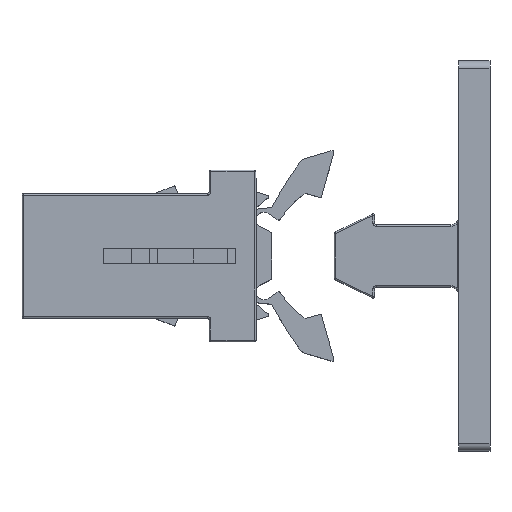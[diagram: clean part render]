
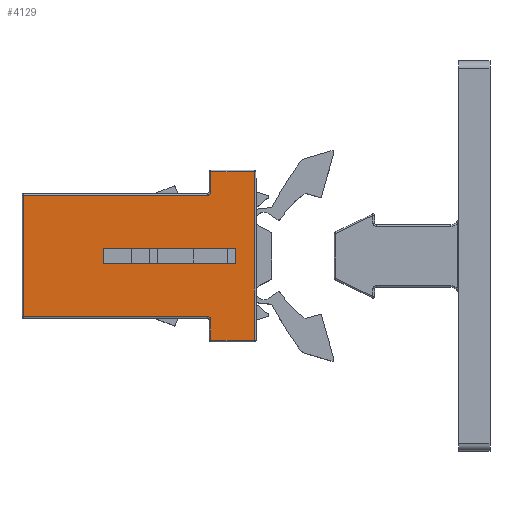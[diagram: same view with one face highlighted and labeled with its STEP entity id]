
A CAD part, top view. The second image highlights one B-rep face of the part: STEP entity #4129.
In plain terms, the highlighted planar face has unit normal (0, 0, 1).
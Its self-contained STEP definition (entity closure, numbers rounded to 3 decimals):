
#46=FACE_BOUND('',#1375,.T.);
#109=PLANE('',#4480);
#217=LINE('',#6436,#585);
#223=LINE('',#6493,#591);
#231=LINE('',#6529,#599);
#237=LINE('',#6557,#605);
#239=LINE('',#6560,#607);
#250=LINE('',#6593,#618);
#252=LINE('',#6596,#620);
#264=LINE('',#6614,#632);
#303=LINE('',#6702,#671);
#304=LINE('',#6704,#672);
#305=LINE('',#6706,#673);
#306=LINE('',#6707,#674);
#585=VECTOR('',#4952,2.8);
#591=VECTOR('',#5018,10.8);
#599=VECTOR('',#5060,2.8);
#605=VECTOR('',#5092,1.3);
#607=VECTOR('',#5096,11.8);
#618=VECTOR('',#5135,7.8);
#620=VECTOR('',#5139,11.8);
#632=VECTOR('',#5163,1.3);
#671=VECTOR('',#5260,1.);
#672=VECTOR('',#5261,8.5);
#673=VECTOR('',#5262,1.);
#674=VECTOR('',#5263,8.5);
#1121=FACE_OUTER_BOUND('',#1374,.T.);
#1374=EDGE_LOOP('',(#3165,#3166,#3167,#3168,#3169,#3170,#3171,#3172,#3173,
#3174));
#1375=EDGE_LOOP('',(#3175,#3176,#3177,#3178));
#1597=CIRCLE('',#4382,0.2);
#1623=CIRCLE('',#4427,0.2);
#1856=VERTEX_POINT('',#6400);
#1866=VERTEX_POINT('',#6427);
#1877=VERTEX_POINT('',#6458);
#1878=VERTEX_POINT('',#6460);
#1887=VERTEX_POINT('',#6484);
#1893=VERTEX_POINT('',#6504);
#1898=VERTEX_POINT('',#6520);
#1901=VERTEX_POINT('',#6533);
#1907=VERTEX_POINT('',#6551);
#1908=VERTEX_POINT('',#6553);
#1935=VERTEX_POINT('',#6700);
#1936=VERTEX_POINT('',#6701);
#1937=VERTEX_POINT('',#6703);
#1938=VERTEX_POINT('',#6705);
#2264=EDGE_CURVE('',#1856,#1866,#217,.T.);
#2275=EDGE_CURVE('',#1877,#1878,#1597,.T.);
#2291=EDGE_CURVE('',#1866,#1887,#223,.T.);
#2309=EDGE_CURVE('',#1887,#1898,#231,.T.);
#2321=EDGE_CURVE('',#1907,#1908,#1623,.T.);
#2323=EDGE_CURVE('',#1898,#1907,#237,.T.);
#2325=EDGE_CURVE('',#1908,#1901,#239,.T.);
#2343=EDGE_CURVE('',#1901,#1893,#250,.T.);
#2345=EDGE_CURVE('',#1893,#1877,#252,.T.);
#2357=EDGE_CURVE('',#1878,#1856,#264,.T.);
#2401=EDGE_CURVE('',#1935,#1936,#303,.T.);
#2402=EDGE_CURVE('',#1936,#1937,#304,.T.);
#2403=EDGE_CURVE('',#1937,#1938,#305,.T.);
#2404=EDGE_CURVE('',#1938,#1935,#306,.T.);
#3165=ORIENTED_EDGE('',*,*,#2321,.F.);
#3166=ORIENTED_EDGE('',*,*,#2323,.F.);
#3167=ORIENTED_EDGE('',*,*,#2309,.F.);
#3168=ORIENTED_EDGE('',*,*,#2291,.F.);
#3169=ORIENTED_EDGE('',*,*,#2264,.F.);
#3170=ORIENTED_EDGE('',*,*,#2357,.F.);
#3171=ORIENTED_EDGE('',*,*,#2275,.F.);
#3172=ORIENTED_EDGE('',*,*,#2345,.F.);
#3173=ORIENTED_EDGE('',*,*,#2343,.F.);
#3174=ORIENTED_EDGE('',*,*,#2325,.F.);
#3175=ORIENTED_EDGE('',*,*,#2401,.T.);
#3176=ORIENTED_EDGE('',*,*,#2402,.T.);
#3177=ORIENTED_EDGE('',*,*,#2403,.T.);
#3178=ORIENTED_EDGE('',*,*,#2404,.T.);
#4129=ADVANCED_FACE('',(#1121,#46),#109,.T.);
#4382=AXIS2_PLACEMENT_3D('',#6461,#4978,#4979);
#4427=AXIS2_PLACEMENT_3D('',#6554,#5086,#5087);
#4480=AXIS2_PLACEMENT_3D('',#6699,#5258,#5259);
#4952=DIRECTION('',(1.,0.,0.));
#4978=DIRECTION('center_axis',(0.,0.,1.));
#4979=DIRECTION('ref_axis',(0.707,-0.707,0.));
#5018=DIRECTION('',(0.,-1.,0.));
#5060=DIRECTION('',(-1.,0.,0.));
#5086=DIRECTION('center_axis',(0.,0.,1.));
#5087=DIRECTION('ref_axis',(0.707,0.707,0.));
#5092=DIRECTION('',(0.,1.,0.));
#5096=DIRECTION('',(-1.,0.,0.));
#5135=DIRECTION('',(0.,1.,0.));
#5139=DIRECTION('',(1.,0.,0.));
#5163=DIRECTION('',(0.,1.,0.));
#5258=DIRECTION('center_axis',(0.,0.,1.));
#5259=DIRECTION('ref_axis',(1.,0.,0.));
#5260=DIRECTION('',(0.,1.,0.));
#5261=DIRECTION('',(1.,0.,0.));
#5262=DIRECTION('',(0.,-1.,0.));
#5263=DIRECTION('',(-1.,0.,0.));
#6400=CARTESIAN_POINT('',(4.6,5.4,3.5));
#6427=CARTESIAN_POINT('',(7.4,5.4,3.5));
#6436=CARTESIAN_POINT('',(6.75,5.4,3.5));
#6458=CARTESIAN_POINT('',(4.4,3.9,3.5));
#6460=CARTESIAN_POINT('',(4.6,4.1,3.5));
#6461=CARTESIAN_POINT('Origin',(4.4,4.1,3.5));
#6484=CARTESIAN_POINT('',(7.4,-5.4,3.5));
#6493=CARTESIAN_POINT('',(7.4,-2.75,3.5));
#6504=CARTESIAN_POINT('',(-7.4,3.9,3.5));
#6520=CARTESIAN_POINT('',(4.6,-5.4,3.5));
#6529=CARTESIAN_POINT('',(5.25,-5.4,3.5));
#6533=CARTESIAN_POINT('',(-7.4,-3.9,3.5));
#6551=CARTESIAN_POINT('',(4.6,-4.1,3.5));
#6553=CARTESIAN_POINT('',(4.4,-3.9,3.5));
#6554=CARTESIAN_POINT('Origin',(4.4,-4.1,3.5));
#6557=CARTESIAN_POINT('',(4.6,2.75,3.5));
#6560=CARTESIAN_POINT('',(-0.75,-3.9,3.5));
#6593=CARTESIAN_POINT('',(-7.4,2.,3.5));
#6596=CARTESIAN_POINT('',(5.25,3.9,3.5));
#6614=CARTESIAN_POINT('',(4.6,2.75,3.5));
#6699=CARTESIAN_POINT('Origin',(6.,0.,3.5));
#6700=CARTESIAN_POINT('',(-2.3,-0.5,3.5));
#6701=CARTESIAN_POINT('',(-2.3,0.5,3.5));
#6702=CARTESIAN_POINT('',(-2.3,-0.25,3.5));
#6703=CARTESIAN_POINT('',(6.2,0.5,3.5));
#6704=CARTESIAN_POINT('',(1.85,0.5,3.5));
#6705=CARTESIAN_POINT('',(6.2,-0.5,3.5));
#6706=CARTESIAN_POINT('',(6.2,0.25,3.5));
#6707=CARTESIAN_POINT('',(6.1,-0.5,3.5));
